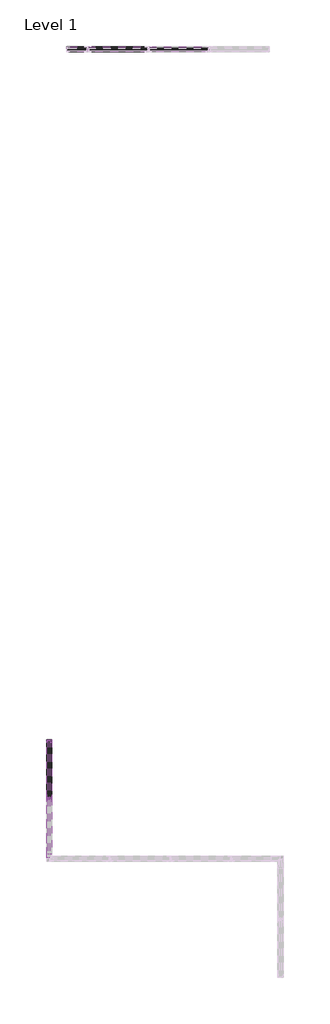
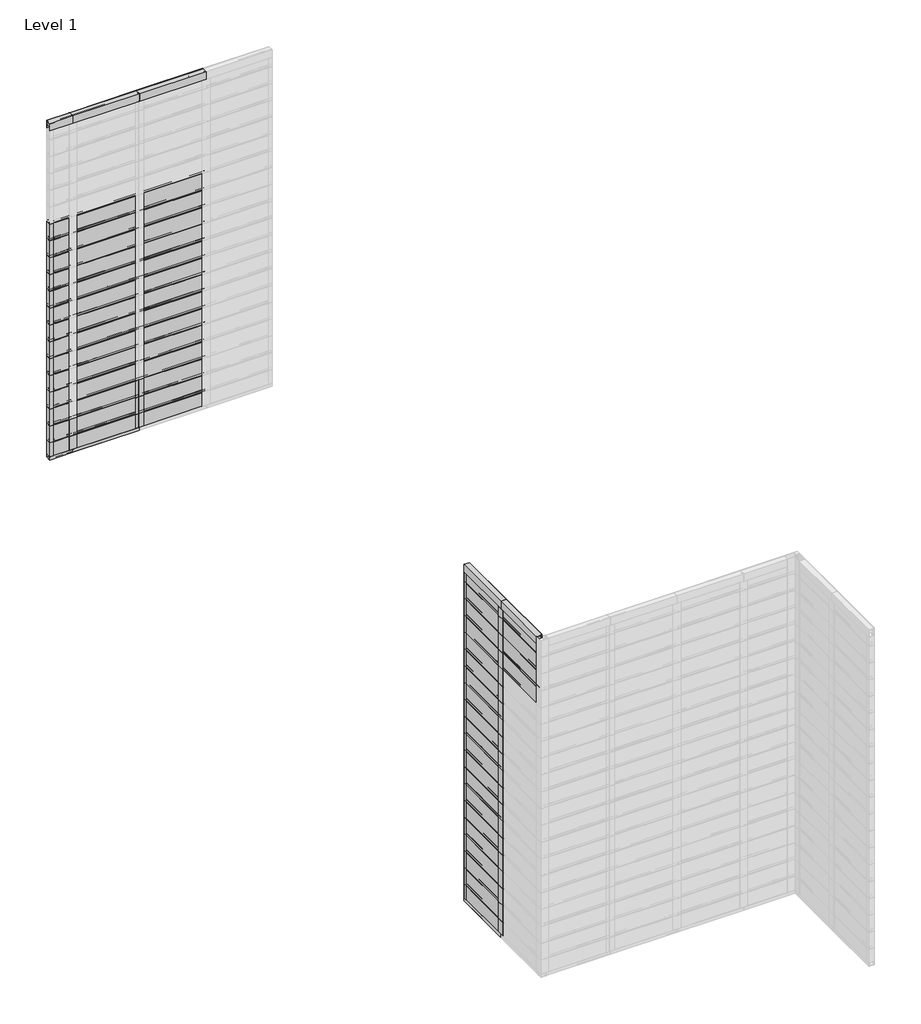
# One storey, part 4 of 6: 67 members, 66 plates.
"""IFC4 building model written with IfcOpenShell, lengths in millimetres."""

from ifc_helpers import new_model, si_unit, origin, place, context, project, spatial, transform, mapped, element, save
from components import rectangular_mullion_fastplank_2_piece_j_trim_top_c2ded550, rectangular_mullion_fastplank_2_piece_j_trim_top_f27fafb0, rectangular_mullion_fastplank_2_piece_j_trim_top_af0a0e51, rectangular_mullion_fastplank_2_piece_j_trim_top_f65f7e6d, rectangular_mullion_fastplank_2_piece_vertical_trim_b8f20e14, rectangular_mullion_fastplank_2_piece_vertical_trim_8e228b97, rectangular_mullion_fastplank_2_piece_vertical_trim_78afc4f4, rectangular_mullion_fastplank_general_j_vertical_left_750d52f3, rectangular_mullion_fastplank_general_j_vertical_left_688eca9a, rectangular_mullion_fastplank_general_j_vertical_left_7844d5d4, rectangular_mullion_fastplank_perforated_starter_j_trim_76a2169d, rectangular_mullion_fastplank_perforated_starter_j_trim_cc9b52f4, rectangular_mullion_fastplank_perforated_starter_j_trim_9e9efb74, plate_9c8115fe, plate_4d58e162, plate_4b7b00a6, plate_fd6fbabc, plate_b9223dce

model = new_model("IFC4")

# Units and contexts
model_context = context("Model", 3, world=origin())
ifc_project = project(units=[si_unit("LENGTHUNIT", "METRE", prefix="MILLI")], contexts=[model_context])

# Site, building, storey
site = spatial("IfcSite", under=ifc_project)
building = spatial("IfcBuilding", under=site)
storey = spatial("IfcBuildingStorey", under=building, Name="Level 1", Elevation=0.0)

# Members
placement = place(None, origin())
rectangular_mullion_fastplank_2_piece_j_trim_top_shape = rectangular_mullion_fastplank_2_piece_j_trim_top_c2ded550(model_context)
element("IfcMember", 1, ObjectType="Rectangular Mullion : FastPlank_2-Piece-J-Trim-Top", at=placement, inside=storey, context=model_context, shape_type="MappedRepresentation", body=[
    mapped(rectangular_mullion_fastplank_2_piece_j_trim_top_shape, transform((-1892.9700325, 7024.9134647, 2032.0), x_axis=(0.0, 0.0, 1.0), y_axis=(0.0, 1.0, 0.0), z_axis=(-1.0, 0.0, 0.0))),
])
rectangular_mullion_fastplank_2_piece_j_trim_top_2_shape = rectangular_mullion_fastplank_2_piece_j_trim_top_f27fafb0(model_context)
element("IfcMember", 2, ObjectType="Rectangular Mullion : FastPlank_2-Piece-J-Trim-Top", at=placement, inside=storey, context=model_context, shape_type="MappedRepresentation", body=[
    mapped(rectangular_mullion_fastplank_2_piece_j_trim_top_2_shape, transform((-1380.5316441, 7024.9134647, 2032.0), x_axis=(0.0, 0.0, 1.0), y_axis=(0.0, 1.0, 0.0), z_axis=(-1.0, 0.0, 0.0))),
])
element("IfcMember", 3, ObjectType="Rectangular Mullion : FastPlank_2-Piece-J-Trim-Top", at=placement, inside=storey, context=model_context, shape_type="MappedRepresentation", body=[
    mapped(rectangular_mullion_fastplank_2_piece_j_trim_top_2_shape, transform((-1761.5316441, 7024.9134647, 2032.0), x_axis=(0.0, 0.0, 1.0), y_axis=(0.0, 1.0, 0.0), z_axis=(-1.0, 0.0, 0.0))),
])
rectangular_mullion_fastplank_2_piece_j_trim_top_3_shape = rectangular_mullion_fastplank_2_piece_j_trim_top_af0a0e51(model_context)
element("IfcMember", 4, ObjectType="Rectangular Mullion : FastPlank_2-Piece-J-Trim-Top", at=placement, inside=storey, context=model_context, shape_type="MappedRepresentation", body=[
    mapped(rectangular_mullion_fastplank_2_piece_j_trim_top_3_shape, transform((-1998.3218907, 2685.265323, 2032.0), x_axis=(0.0, 0.0, 1.0), y_axis=(1.0, 0.0, 0.0), z_axis=(0.0, 1.0, 0.0))),
])
rectangular_mullion_fastplank_2_piece_j_trim_top_4_shape = rectangular_mullion_fastplank_2_piece_j_trim_top_f65f7e6d(model_context)
element("IfcMember", 5, ObjectType="Rectangular Mullion : FastPlank_2-Piece-J-Trim-Top", at=placement, inside=storey, context=model_context, shape_type="MappedRepresentation", body=[
    mapped(rectangular_mullion_fastplank_2_piece_j_trim_top_4_shape, transform((-1998.3218907, 2320.1496574, 2032.0), x_axis=(0.0, 0.0, 1.0), y_axis=(1.0, 0.0, 0.0), z_axis=(0.0, 1.0, 0.0))),
])
rectangular_mullion_fastplank_2_piece_vertical_trim_shape = rectangular_mullion_fastplank_2_piece_vertical_trim_b8f20e14(model_context)
element("IfcMember", 6, ObjectType="Rectangular Mullion : FastPlank_2-Piece-Vertical-Trim", at=placement, inside=storey, context=model_context, shape_type="MappedRepresentation", body=[
    mapped(rectangular_mullion_fastplank_2_piece_vertical_trim_shape, transform((-1998.3218907, 2320.1496574, 102.9000189), x_axis=(0.0, 1.0, 0.0), y_axis=(1.0, 0.0, 0.0), z_axis=(0.0, 0.0, -1.0))),
])
element("IfcMember", 7, ObjectType="Rectangular Mullion : FastPlank_2-Piece-Vertical-Trim", at=placement, inside=storey, context=model_context, shape_type="MappedRepresentation", body=[
    mapped(rectangular_mullion_fastplank_2_piece_vertical_trim_shape, transform((-1998.3218907, 2320.1496574, 204.5000189), x_axis=(0.0, 1.0, 0.0), y_axis=(1.0, 0.0, 0.0), z_axis=(0.0, 0.0, -1.0))),
])
element("IfcMember", 8, ObjectType="Rectangular Mullion : FastPlank_2-Piece-Vertical-Trim", at=placement, inside=storey, context=model_context, shape_type="MappedRepresentation", body=[
    mapped(rectangular_mullion_fastplank_2_piece_vertical_trim_shape, transform((-1998.3218907, 2320.1496574, 306.1000189), x_axis=(0.0, 1.0, 0.0), y_axis=(1.0, 0.0, 0.0), z_axis=(0.0, 0.0, -1.0))),
])
element("IfcMember", 9, ObjectType="Rectangular Mullion : FastPlank_2-Piece-Vertical-Trim", at=placement, inside=storey, context=model_context, shape_type="MappedRepresentation", body=[
    mapped(rectangular_mullion_fastplank_2_piece_vertical_trim_shape, transform((-1998.3218907, 2320.1496574, 407.7000189), x_axis=(0.0, 1.0, 0.0), y_axis=(1.0, 0.0, 0.0), z_axis=(0.0, 0.0, -1.0))),
])
element("IfcMember", 10, ObjectType="Rectangular Mullion : FastPlank_2-Piece-Vertical-Trim", at=placement, inside=storey, context=model_context, shape_type="MappedRepresentation", body=[
    mapped(rectangular_mullion_fastplank_2_piece_vertical_trim_shape, transform((-1998.3218907, 2320.1496574, 509.3000189), x_axis=(0.0, 1.0, 0.0), y_axis=(1.0, 0.0, 0.0), z_axis=(0.0, 0.0, -1.0))),
])
element("IfcMember", 11, ObjectType="Rectangular Mullion : FastPlank_2-Piece-Vertical-Trim", at=placement, inside=storey, context=model_context, shape_type="MappedRepresentation", body=[
    mapped(rectangular_mullion_fastplank_2_piece_vertical_trim_shape, transform((-1998.3218907, 2320.1496574, 610.9000189), x_axis=(0.0, 1.0, 0.0), y_axis=(1.0, 0.0, 0.0), z_axis=(0.0, 0.0, -1.0))),
])
element("IfcMember", 12, ObjectType="Rectangular Mullion : FastPlank_2-Piece-Vertical-Trim", at=placement, inside=storey, context=model_context, shape_type="MappedRepresentation", body=[
    mapped(rectangular_mullion_fastplank_2_piece_vertical_trim_shape, transform((-1998.3218907, 2320.1496574, 712.5000189), x_axis=(0.0, 1.0, 0.0), y_axis=(1.0, 0.0, 0.0), z_axis=(0.0, 0.0, -1.0))),
])
element("IfcMember", 13, ObjectType="Rectangular Mullion : FastPlank_2-Piece-Vertical-Trim", at=placement, inside=storey, context=model_context, shape_type="MappedRepresentation", body=[
    mapped(rectangular_mullion_fastplank_2_piece_vertical_trim_shape, transform((-1998.3218907, 2320.1496574, 814.1000189), x_axis=(0.0, 1.0, 0.0), y_axis=(1.0, 0.0, 0.0), z_axis=(0.0, 0.0, -1.0))),
])
element("IfcMember", 14, ObjectType="Rectangular Mullion : FastPlank_2-Piece-Vertical-Trim", at=placement, inside=storey, context=model_context, shape_type="MappedRepresentation", body=[
    mapped(rectangular_mullion_fastplank_2_piece_vertical_trim_shape, transform((-1998.3218907, 2320.1496574, 915.7000189), x_axis=(0.0, 1.0, 0.0), y_axis=(1.0, 0.0, 0.0), z_axis=(0.0, 0.0, -1.0))),
])
element("IfcMember", 15, ObjectType="Rectangular Mullion : FastPlank_2-Piece-Vertical-Trim", at=placement, inside=storey, context=model_context, shape_type="MappedRepresentation", body=[
    mapped(rectangular_mullion_fastplank_2_piece_vertical_trim_shape, transform((-1998.3218907, 2320.1496574, 1017.3000189), x_axis=(0.0, 1.0, 0.0), y_axis=(1.0, 0.0, 0.0), z_axis=(0.0, 0.0, -1.0))),
])
element("IfcMember", 16, ObjectType="Rectangular Mullion : FastPlank_2-Piece-Vertical-Trim", at=placement, inside=storey, context=model_context, shape_type="MappedRepresentation", body=[
    mapped(rectangular_mullion_fastplank_2_piece_vertical_trim_shape, transform((-1998.3218907, 2320.1496574, 1118.9000189), x_axis=(0.0, 1.0, 0.0), y_axis=(1.0, 0.0, 0.0), z_axis=(0.0, 0.0, -1.0))),
])
element("IfcMember", 17, ObjectType="Rectangular Mullion : FastPlank_2-Piece-Vertical-Trim", at=placement, inside=storey, context=model_context, shape_type="MappedRepresentation", body=[
    mapped(rectangular_mullion_fastplank_2_piece_vertical_trim_shape, transform((-1998.3218907, 2320.1496574, 1220.5000189), x_axis=(0.0, 1.0, 0.0), y_axis=(1.0, 0.0, 0.0), z_axis=(0.0, 0.0, -1.0))),
])
element("IfcMember", 18, ObjectType="Rectangular Mullion : FastPlank_2-Piece-Vertical-Trim", at=placement, inside=storey, context=model_context, shape_type="MappedRepresentation", body=[
    mapped(rectangular_mullion_fastplank_2_piece_vertical_trim_shape, transform((-1998.3218907, 2320.1496574, 1322.1000189), x_axis=(0.0, 1.0, 0.0), y_axis=(1.0, 0.0, 0.0), z_axis=(0.0, 0.0, -1.0))),
])
element("IfcMember", 19, ObjectType="Rectangular Mullion : FastPlank_2-Piece-Vertical-Trim", at=placement, inside=storey, context=model_context, shape_type="MappedRepresentation", body=[
    mapped(rectangular_mullion_fastplank_2_piece_vertical_trim_shape, transform((-1998.3218907, 2320.1496574, 1423.7000189), x_axis=(0.0, 1.0, 0.0), y_axis=(1.0, 0.0, 0.0), z_axis=(0.0, 0.0, -1.0))),
])
element("IfcMember", 20, ObjectType="Rectangular Mullion : FastPlank_2-Piece-Vertical-Trim", at=placement, inside=storey, context=model_context, shape_type="MappedRepresentation", body=[
    mapped(rectangular_mullion_fastplank_2_piece_vertical_trim_shape, transform((-1998.3218907, 2320.1496574, 1525.3000189), x_axis=(0.0, 1.0, 0.0), y_axis=(1.0, 0.0, 0.0), z_axis=(0.0, 0.0, -1.0))),
])
element("IfcMember", 21, ObjectType="Rectangular Mullion : FastPlank_2-Piece-Vertical-Trim", at=placement, inside=storey, context=model_context, shape_type="MappedRepresentation", body=[
    mapped(rectangular_mullion_fastplank_2_piece_vertical_trim_shape, transform((-1998.3218907, 2320.1496574, 1626.9000189), x_axis=(0.0, 1.0, 0.0), y_axis=(1.0, 0.0, 0.0), z_axis=(0.0, 0.0, -1.0))),
])
element("IfcMember", 22, ObjectType="Rectangular Mullion : FastPlank_2-Piece-Vertical-Trim", at=placement, inside=storey, context=model_context, shape_type="MappedRepresentation", body=[
    mapped(rectangular_mullion_fastplank_2_piece_vertical_trim_shape, transform((-1998.3218907, 2320.1496574, 1728.5000189), x_axis=(0.0, 1.0, 0.0), y_axis=(1.0, 0.0, 0.0), z_axis=(0.0, 0.0, -1.0))),
])
element("IfcMember", 23, ObjectType="Rectangular Mullion : FastPlank_2-Piece-Vertical-Trim", at=placement, inside=storey, context=model_context, shape_type="MappedRepresentation", body=[
    mapped(rectangular_mullion_fastplank_2_piece_vertical_trim_shape, transform((-1998.3218907, 2320.1496574, 1830.1000189), x_axis=(0.0, 1.0, 0.0), y_axis=(1.0, 0.0, 0.0), z_axis=(0.0, 0.0, -1.0))),
])
element("IfcMember", 24, ObjectType="Rectangular Mullion : FastPlank_2-Piece-Vertical-Trim", at=placement, inside=storey, context=model_context, shape_type="MappedRepresentation", body=[
    mapped(rectangular_mullion_fastplank_2_piece_vertical_trim_shape, transform((-1380.5316441, 7024.9134647, 102.9000189), x_axis=(-1.0, 0.0, 0.0), y_axis=(0.0, 1.0, 0.0), z_axis=(0.0, 0.0, -1.0))),
])
element("IfcMember", 25, ObjectType="Rectangular Mullion : FastPlank_2-Piece-Vertical-Trim", at=placement, inside=storey, context=model_context, shape_type="MappedRepresentation", body=[
    mapped(rectangular_mullion_fastplank_2_piece_vertical_trim_shape, transform((-1761.5316441, 7024.9134647, 102.9000189), x_axis=(-1.0, 0.0, 0.0), y_axis=(0.0, 1.0, 0.0), z_axis=(0.0, 0.0, -1.0))),
])
element("IfcMember", 26, ObjectType="Rectangular Mullion : FastPlank_2-Piece-Vertical-Trim", at=placement, inside=storey, context=model_context, shape_type="MappedRepresentation", body=[
    mapped(rectangular_mullion_fastplank_2_piece_vertical_trim_shape, transform((-1380.5316441, 7024.9134647, 204.5000189), x_axis=(-1.0, 0.0, 0.0), y_axis=(0.0, 1.0, 0.0), z_axis=(0.0, 0.0, -1.0))),
])
rectangular_mullion_fastplank_2_piece_vertical_trim_2_shape = rectangular_mullion_fastplank_2_piece_vertical_trim_8e228b97(model_context)
element("IfcMember", 27, ObjectType="Rectangular Mullion : FastPlank_2-Piece-Vertical-Trim", at=placement, inside=storey, context=model_context, shape_type="MappedRepresentation", body=[
    mapped(rectangular_mullion_fastplank_2_piece_vertical_trim_2_shape, transform((-1998.3218907, 2320.1496574, 1931.7000189), x_axis=(0.0, 1.0, 0.0), y_axis=(1.0, 0.0, 0.0), z_axis=(0.0, 0.0, -1.0))),
])
rectangular_mullion_fastplank_2_piece_vertical_trim_3_shape = rectangular_mullion_fastplank_2_piece_vertical_trim_78afc4f4(model_context)
element("IfcMember", 28, ObjectType="Rectangular Mullion : FastPlank_2-Piece-Vertical-Trim", at=placement, inside=storey, context=model_context, shape_type="MappedRepresentation", body=[
    mapped(rectangular_mullion_fastplank_2_piece_vertical_trim_3_shape, transform((-1998.3218907, 2320.1496574, 19.05), x_axis=(0.0, 1.0, 0.0), y_axis=(1.0, 0.0, 0.0), z_axis=(0.0, 0.0, -1.0))),
])
element("IfcMember", 29, ObjectType="Rectangular Mullion : FastPlank_2-Piece-Vertical-Trim", at=placement, inside=storey, context=model_context, shape_type="MappedRepresentation", body=[
    mapped(rectangular_mullion_fastplank_2_piece_vertical_trim_3_shape, transform((-1380.5316441, 7024.9134647, 19.05), x_axis=(-1.0, 0.0, 0.0), y_axis=(0.0, 1.0, 0.0), z_axis=(0.0, 0.0, -1.0))),
])
element("IfcMember", 30, ObjectType="Rectangular Mullion : FastPlank_2-Piece-Vertical-Trim", at=placement, inside=storey, context=model_context, shape_type="MappedRepresentation", body=[
    mapped(rectangular_mullion_fastplank_2_piece_vertical_trim_3_shape, transform((-1761.5316441, 7024.9134647, 19.05), x_axis=(-1.0, 0.0, 0.0), y_axis=(0.0, 1.0, 0.0), z_axis=(0.0, 0.0, -1.0))),
])
rectangular_mullion_fastplank_general_j_vertical_left_shape = rectangular_mullion_fastplank_general_j_vertical_left_750d52f3(model_context)
element("IfcMember", 31, ObjectType="Rectangular Mullion : FastPlank_General-J-Vertical-Left", at=placement, inside=storey, context=model_context, shape_type="MappedRepresentation", body=[
    mapped(rectangular_mullion_fastplank_general_j_vertical_left_shape, transform((-1998.3218907, 2685.265323, 102.9000189), x_axis=(0.0, 1.0, 0.0), y_axis=(1.0, 0.0, 0.0), z_axis=(0.0, 0.0, -1.0))),
])
element("IfcMember", 32, ObjectType="Rectangular Mullion : FastPlank_General-J-Vertical-Left", at=placement, inside=storey, context=model_context, shape_type="MappedRepresentation", body=[
    mapped(rectangular_mullion_fastplank_general_j_vertical_left_shape, transform((-1998.3218907, 2685.265323, 204.5000189), x_axis=(0.0, 1.0, 0.0), y_axis=(1.0, 0.0, 0.0), z_axis=(0.0, 0.0, -1.0))),
])
element("IfcMember", 33, ObjectType="Rectangular Mullion : FastPlank_General-J-Vertical-Left", at=placement, inside=storey, context=model_context, shape_type="MappedRepresentation", body=[
    mapped(rectangular_mullion_fastplank_general_j_vertical_left_shape, transform((-1998.3218907, 2685.265323, 306.1000189), x_axis=(0.0, 1.0, 0.0), y_axis=(1.0, 0.0, 0.0), z_axis=(0.0, 0.0, -1.0))),
])
element("IfcMember", 34, ObjectType="Rectangular Mullion : FastPlank_General-J-Vertical-Left", at=placement, inside=storey, context=model_context, shape_type="MappedRepresentation", body=[
    mapped(rectangular_mullion_fastplank_general_j_vertical_left_shape, transform((-1998.3218907, 2685.265323, 407.7000189), x_axis=(0.0, 1.0, 0.0), y_axis=(1.0, 0.0, 0.0), z_axis=(0.0, 0.0, -1.0))),
])
element("IfcMember", 35, ObjectType="Rectangular Mullion : FastPlank_General-J-Vertical-Left", at=placement, inside=storey, context=model_context, shape_type="MappedRepresentation", body=[
    mapped(rectangular_mullion_fastplank_general_j_vertical_left_shape, transform((-1998.3218907, 2685.265323, 509.3000189), x_axis=(0.0, 1.0, 0.0), y_axis=(1.0, 0.0, 0.0), z_axis=(0.0, 0.0, -1.0))),
])
element("IfcMember", 36, ObjectType="Rectangular Mullion : FastPlank_General-J-Vertical-Left", at=placement, inside=storey, context=model_context, shape_type="MappedRepresentation", body=[
    mapped(rectangular_mullion_fastplank_general_j_vertical_left_shape, transform((-1998.3218907, 2685.265323, 610.9000189), x_axis=(0.0, 1.0, 0.0), y_axis=(1.0, 0.0, 0.0), z_axis=(0.0, 0.0, -1.0))),
])
element("IfcMember", 37, ObjectType="Rectangular Mullion : FastPlank_General-J-Vertical-Left", at=placement, inside=storey, context=model_context, shape_type="MappedRepresentation", body=[
    mapped(rectangular_mullion_fastplank_general_j_vertical_left_shape, transform((-1998.3218907, 2685.265323, 712.5000189), x_axis=(0.0, 1.0, 0.0), y_axis=(1.0, 0.0, 0.0), z_axis=(0.0, 0.0, -1.0))),
])
element("IfcMember", 38, ObjectType="Rectangular Mullion : FastPlank_General-J-Vertical-Left", at=placement, inside=storey, context=model_context, shape_type="MappedRepresentation", body=[
    mapped(rectangular_mullion_fastplank_general_j_vertical_left_shape, transform((-1998.3218907, 2685.265323, 814.1000189), x_axis=(0.0, 1.0, 0.0), y_axis=(1.0, 0.0, 0.0), z_axis=(0.0, 0.0, -1.0))),
])
element("IfcMember", 39, ObjectType="Rectangular Mullion : FastPlank_General-J-Vertical-Left", at=placement, inside=storey, context=model_context, shape_type="MappedRepresentation", body=[
    mapped(rectangular_mullion_fastplank_general_j_vertical_left_shape, transform((-1998.3218907, 2685.265323, 915.7000189), x_axis=(0.0, 1.0, 0.0), y_axis=(1.0, 0.0, 0.0), z_axis=(0.0, 0.0, -1.0))),
])
element("IfcMember", 40, ObjectType="Rectangular Mullion : FastPlank_General-J-Vertical-Left", at=placement, inside=storey, context=model_context, shape_type="MappedRepresentation", body=[
    mapped(rectangular_mullion_fastplank_general_j_vertical_left_shape, transform((-1998.3218907, 2685.265323, 1017.3000189), x_axis=(0.0, 1.0, 0.0), y_axis=(1.0, 0.0, 0.0), z_axis=(0.0, 0.0, -1.0))),
])
element("IfcMember", 41, ObjectType="Rectangular Mullion : FastPlank_General-J-Vertical-Left", at=placement, inside=storey, context=model_context, shape_type="MappedRepresentation", body=[
    mapped(rectangular_mullion_fastplank_general_j_vertical_left_shape, transform((-1998.3218907, 2685.265323, 1118.9000189), x_axis=(0.0, 1.0, 0.0), y_axis=(1.0, 0.0, 0.0), z_axis=(0.0, 0.0, -1.0))),
])
element("IfcMember", 42, ObjectType="Rectangular Mullion : FastPlank_General-J-Vertical-Left", at=placement, inside=storey, context=model_context, shape_type="MappedRepresentation", body=[
    mapped(rectangular_mullion_fastplank_general_j_vertical_left_shape, transform((-1998.3218907, 2685.265323, 1220.5000189), x_axis=(0.0, 1.0, 0.0), y_axis=(1.0, 0.0, 0.0), z_axis=(0.0, 0.0, -1.0))),
])
element("IfcMember", 43, ObjectType="Rectangular Mullion : FastPlank_General-J-Vertical-Left", at=placement, inside=storey, context=model_context, shape_type="MappedRepresentation", body=[
    mapped(rectangular_mullion_fastplank_general_j_vertical_left_shape, transform((-1998.3218907, 2685.265323, 1322.1000189), x_axis=(0.0, 1.0, 0.0), y_axis=(1.0, 0.0, 0.0), z_axis=(0.0, 0.0, -1.0))),
])
element("IfcMember", 44, ObjectType="Rectangular Mullion : FastPlank_General-J-Vertical-Left", at=placement, inside=storey, context=model_context, shape_type="MappedRepresentation", body=[
    mapped(rectangular_mullion_fastplank_general_j_vertical_left_shape, transform((-1998.3218907, 2685.265323, 1423.7000189), x_axis=(0.0, 1.0, 0.0), y_axis=(1.0, 0.0, 0.0), z_axis=(0.0, 0.0, -1.0))),
])
element("IfcMember", 45, ObjectType="Rectangular Mullion : FastPlank_General-J-Vertical-Left", at=placement, inside=storey, context=model_context, shape_type="MappedRepresentation", body=[
    mapped(rectangular_mullion_fastplank_general_j_vertical_left_shape, transform((-1998.3218907, 2685.265323, 1525.3000189), x_axis=(0.0, 1.0, 0.0), y_axis=(1.0, 0.0, 0.0), z_axis=(0.0, 0.0, -1.0))),
])
element("IfcMember", 46, ObjectType="Rectangular Mullion : FastPlank_General-J-Vertical-Left", at=placement, inside=storey, context=model_context, shape_type="MappedRepresentation", body=[
    mapped(rectangular_mullion_fastplank_general_j_vertical_left_shape, transform((-1998.3218907, 2685.265323, 1626.9000189), x_axis=(0.0, 1.0, 0.0), y_axis=(1.0, 0.0, 0.0), z_axis=(0.0, 0.0, -1.0))),
])
element("IfcMember", 47, ObjectType="Rectangular Mullion : FastPlank_General-J-Vertical-Left", at=placement, inside=storey, context=model_context, shape_type="MappedRepresentation", body=[
    mapped(rectangular_mullion_fastplank_general_j_vertical_left_shape, transform((-1998.3218907, 2685.265323, 1728.5000189), x_axis=(0.0, 1.0, 0.0), y_axis=(1.0, 0.0, 0.0), z_axis=(0.0, 0.0, -1.0))),
])
element("IfcMember", 48, ObjectType="Rectangular Mullion : FastPlank_General-J-Vertical-Left", at=placement, inside=storey, context=model_context, shape_type="MappedRepresentation", body=[
    mapped(rectangular_mullion_fastplank_general_j_vertical_left_shape, transform((-1998.3218907, 2685.265323, 1830.1000189), x_axis=(0.0, 1.0, 0.0), y_axis=(1.0, 0.0, 0.0), z_axis=(0.0, 0.0, -1.0))),
])
element("IfcMember", 49, ObjectType="Rectangular Mullion : FastPlank_General-J-Vertical-Left", at=placement, inside=storey, context=model_context, shape_type="MappedRepresentation", body=[
    mapped(rectangular_mullion_fastplank_general_j_vertical_left_shape, transform((-1892.9700325, 7024.9134647, 102.9000189), x_axis=(-1.0, 0.0, 0.0), y_axis=(0.0, 1.0, 0.0), z_axis=(0.0, 0.0, -1.0))),
])
element("IfcMember", 50, ObjectType="Rectangular Mullion : FastPlank_General-J-Vertical-Left", at=placement, inside=storey, context=model_context, shape_type="MappedRepresentation", body=[
    mapped(rectangular_mullion_fastplank_general_j_vertical_left_shape, transform((-1892.9700325, 7024.9134647, 204.5000189), x_axis=(-1.0, 0.0, 0.0), y_axis=(0.0, 1.0, 0.0), z_axis=(0.0, 0.0, -1.0))),
])
element("IfcMember", 51, ObjectType="Rectangular Mullion : FastPlank_General-J-Vertical-Left", at=placement, inside=storey, context=model_context, shape_type="MappedRepresentation", body=[
    mapped(rectangular_mullion_fastplank_general_j_vertical_left_shape, transform((-1892.9700325, 7024.9134647, 306.1000189), x_axis=(-1.0, 0.0, 0.0), y_axis=(0.0, 1.0, 0.0), z_axis=(0.0, 0.0, -1.0))),
])
element("IfcMember", 52, ObjectType="Rectangular Mullion : FastPlank_General-J-Vertical-Left", at=placement, inside=storey, context=model_context, shape_type="MappedRepresentation", body=[
    mapped(rectangular_mullion_fastplank_general_j_vertical_left_shape, transform((-1892.9700325, 7024.9134647, 407.7000189), x_axis=(-1.0, 0.0, 0.0), y_axis=(0.0, 1.0, 0.0), z_axis=(0.0, 0.0, -1.0))),
])
element("IfcMember", 53, ObjectType="Rectangular Mullion : FastPlank_General-J-Vertical-Left", at=placement, inside=storey, context=model_context, shape_type="MappedRepresentation", body=[
    mapped(rectangular_mullion_fastplank_general_j_vertical_left_shape, transform((-1892.9700325, 7024.9134647, 509.3000189), x_axis=(-1.0, 0.0, 0.0), y_axis=(0.0, 1.0, 0.0), z_axis=(0.0, 0.0, -1.0))),
])
element("IfcMember", 54, ObjectType="Rectangular Mullion : FastPlank_General-J-Vertical-Left", at=placement, inside=storey, context=model_context, shape_type="MappedRepresentation", body=[
    mapped(rectangular_mullion_fastplank_general_j_vertical_left_shape, transform((-1892.9700325, 7024.9134647, 610.9000189), x_axis=(-1.0, 0.0, 0.0), y_axis=(0.0, 1.0, 0.0), z_axis=(0.0, 0.0, -1.0))),
])
element("IfcMember", 55, ObjectType="Rectangular Mullion : FastPlank_General-J-Vertical-Left", at=placement, inside=storey, context=model_context, shape_type="MappedRepresentation", body=[
    mapped(rectangular_mullion_fastplank_general_j_vertical_left_shape, transform((-1892.9700325, 7024.9134647, 712.5000189), x_axis=(-1.0, 0.0, 0.0), y_axis=(0.0, 1.0, 0.0), z_axis=(0.0, 0.0, -1.0))),
])
element("IfcMember", 56, ObjectType="Rectangular Mullion : FastPlank_General-J-Vertical-Left", at=placement, inside=storey, context=model_context, shape_type="MappedRepresentation", body=[
    mapped(rectangular_mullion_fastplank_general_j_vertical_left_shape, transform((-1892.9700325, 7024.9134647, 814.1000189), x_axis=(-1.0, 0.0, 0.0), y_axis=(0.0, 1.0, 0.0), z_axis=(0.0, 0.0, -1.0))),
])
element("IfcMember", 57, ObjectType="Rectangular Mullion : FastPlank_General-J-Vertical-Left", at=placement, inside=storey, context=model_context, shape_type="MappedRepresentation", body=[
    mapped(rectangular_mullion_fastplank_general_j_vertical_left_shape, transform((-1892.9700325, 7024.9134647, 915.7000189), x_axis=(-1.0, 0.0, 0.0), y_axis=(0.0, 1.0, 0.0), z_axis=(0.0, 0.0, -1.0))),
])
element("IfcMember", 58, ObjectType="Rectangular Mullion : FastPlank_General-J-Vertical-Left", at=placement, inside=storey, context=model_context, shape_type="MappedRepresentation", body=[
    mapped(rectangular_mullion_fastplank_general_j_vertical_left_shape, transform((-1892.9700325, 7024.9134647, 1017.3000189), x_axis=(-1.0, 0.0, 0.0), y_axis=(0.0, 1.0, 0.0), z_axis=(0.0, 0.0, -1.0))),
])
element("IfcMember", 59, ObjectType="Rectangular Mullion : FastPlank_General-J-Vertical-Left", at=placement, inside=storey, context=model_context, shape_type="MappedRepresentation", body=[
    mapped(rectangular_mullion_fastplank_general_j_vertical_left_shape, transform((-1892.9700325, 7024.9134647, 1118.9000189), x_axis=(-1.0, 0.0, 0.0), y_axis=(0.0, 1.0, 0.0), z_axis=(0.0, 0.0, -1.0))),
])
element("IfcMember", 60, ObjectType="Rectangular Mullion : FastPlank_General-J-Vertical-Left", at=placement, inside=storey, context=model_context, shape_type="MappedRepresentation", body=[
    mapped(rectangular_mullion_fastplank_general_j_vertical_left_shape, transform((-1892.9700325, 7024.9134647, 1220.5000189), x_axis=(-1.0, 0.0, 0.0), y_axis=(0.0, 1.0, 0.0), z_axis=(0.0, 0.0, -1.0))),
])
element("IfcMember", 61, ObjectType="Rectangular Mullion : FastPlank_General-J-Vertical-Left", at=placement, inside=storey, context=model_context, shape_type="MappedRepresentation", body=[
    mapped(rectangular_mullion_fastplank_general_j_vertical_left_shape, transform((-1892.9700325, 7024.9134647, 1322.1000189), x_axis=(-1.0, 0.0, 0.0), y_axis=(0.0, 1.0, 0.0), z_axis=(0.0, 0.0, -1.0))),
])
rectangular_mullion_fastplank_general_j_vertical_left_2_shape = rectangular_mullion_fastplank_general_j_vertical_left_688eca9a(model_context)
element("IfcMember", 62, ObjectType="Rectangular Mullion : FastPlank_General-J-Vertical-Left", at=placement, inside=storey, context=model_context, shape_type="MappedRepresentation", body=[
    mapped(rectangular_mullion_fastplank_general_j_vertical_left_2_shape, transform((-1998.3218907, 2685.265323, 1931.7000189), x_axis=(0.0, 1.0, 0.0), y_axis=(1.0, 0.0, 0.0), z_axis=(0.0, 0.0, -1.0))),
])
rectangular_mullion_fastplank_general_j_vertical_left_3_shape = rectangular_mullion_fastplank_general_j_vertical_left_7844d5d4(model_context)
element("IfcMember", 63, ObjectType="Rectangular Mullion : FastPlank_General-J-Vertical-Left", at=placement, inside=storey, context=model_context, shape_type="MappedRepresentation", body=[
    mapped(rectangular_mullion_fastplank_general_j_vertical_left_3_shape, transform((-1998.3218907, 2685.265323, 19.05), x_axis=(0.0, 1.0, 0.0), y_axis=(1.0, 0.0, 0.0), z_axis=(0.0, 0.0, -1.0))),
])
element("IfcMember", 64, ObjectType="Rectangular Mullion : FastPlank_General-J-Vertical-Left", at=placement, inside=storey, context=model_context, shape_type="MappedRepresentation", body=[
    mapped(rectangular_mullion_fastplank_general_j_vertical_left_3_shape, transform((-1892.9700325, 7024.9134647, 19.05), x_axis=(-1.0, 0.0, 0.0), y_axis=(0.0, 1.0, 0.0), z_axis=(0.0, 0.0, -1.0))),
])
rectangular_mullion_fastplank_perforated_starter_j_trim_shape = rectangular_mullion_fastplank_perforated_starter_j_trim_76a2169d(model_context)
element("IfcMember", 65, ObjectType="Rectangular Mullion : FastPlank_Perforated-Starter-J-Trim", at=placement, inside=storey, context=model_context, shape_type="MappedRepresentation", body=[
    mapped(rectangular_mullion_fastplank_perforated_starter_j_trim_shape, transform((-1380.5316441, 7024.9134647, 0.0), x_axis=(0.0, 0.0, -1.0), y_axis=(0.0, 1.0, 0.0), z_axis=(1.0, 0.0, 0.0))),
])
rectangular_mullion_fastplank_perforated_starter_j_trim_2_shape = rectangular_mullion_fastplank_perforated_starter_j_trim_cc9b52f4(model_context)
element("IfcMember", 66, ObjectType="Rectangular Mullion : FastPlank_Perforated-Starter-J-Trim", at=placement, inside=storey, context=model_context, shape_type="MappedRepresentation", body=[
    mapped(rectangular_mullion_fastplank_perforated_starter_j_trim_2_shape, transform((-1761.5316441, 7024.9134647, 0.0), x_axis=(0.0, 0.0, -1.0), y_axis=(0.0, 1.0, 0.0), z_axis=(1.0, 0.0, 0.0))),
])
rectangular_mullion_fastplank_perforated_starter_j_trim_3_shape = rectangular_mullion_fastplank_perforated_starter_j_trim_9e9efb74(model_context)
element("IfcMember", 67, ObjectType="Rectangular Mullion : FastPlank_Perforated-Starter-J-Trim", at=placement, inside=storey, context=model_context, shape_type="MappedRepresentation", body=[
    mapped(rectangular_mullion_fastplank_perforated_starter_j_trim_3_shape, transform((-1998.3218907, 2320.1496574, 0.0), x_axis=(0.0, 0.0, -1.0), y_axis=(1.0, 0.0, 0.0), z_axis=(0.0, -1.0, 0.0))),
])

# Plates
plate_shape = plate_9c8115fe(model_context)
element("IfcPlate", 68, ObjectType="FastPlank_P44V-V-Notch-4″-Plank-Horizontal : P44V-V-Notch-4″-Plank-Horizontal", at=placement, inside=storey, context=model_context, shape_type="MappedRepresentation", body=[
    mapped(plate_shape, transform((-1998.3218907, 2129.6496573, 1626.9000189), x_axis=(0.0, 1.0, 0.0), y_axis=(-1.0, 0.0, 0.0), z_axis=(0.0, 0.0, 1.0))),
])
element("IfcPlate", 69, ObjectType="FastPlank_P44V-V-Notch-4″-Plank-Horizontal : P44V-V-Notch-4″-Plank-Horizontal", at=placement, inside=storey, context=model_context, shape_type="MappedRepresentation", body=[
    mapped(plate_shape, transform((-1998.3218907, 2129.6496573, 1728.5000189), x_axis=(0.0, 1.0, 0.0), y_axis=(-1.0, 0.0, 0.0), z_axis=(0.0, 0.0, 1.0))),
])
element("IfcPlate", 70, ObjectType="FastPlank_P44V-V-Notch-4″-Plank-Horizontal : P44V-V-Notch-4″-Plank-Horizontal", at=placement, inside=storey, context=model_context, shape_type="MappedRepresentation", body=[
    mapped(plate_shape, transform((-1998.3218907, 2129.6496573, 1830.1000189), x_axis=(0.0, 1.0, 0.0), y_axis=(-1.0, 0.0, 0.0), z_axis=(0.0, 0.0, 1.0))),
])
element("IfcPlate", 71, ObjectType="FastPlank_P44V-V-Notch-4″-Plank-Horizontal : P44V-V-Notch-4″-Plank-Horizontal", at=placement, inside=storey, context=model_context, shape_type="MappedRepresentation", body=[
    mapped(plate_shape, transform((-1190.0316441, 7024.9134647, 1.3000189), x_axis=(-1.0, 0.0, 0.0), y_axis=(0.0, -1.0, 0.0), z_axis=(0.0, 0.0, 1.0))),
])
element("IfcPlate", 72, ObjectType="FastPlank_P44V-V-Notch-4″-Plank-Horizontal : P44V-V-Notch-4″-Plank-Horizontal", at=placement, inside=storey, context=model_context, shape_type="MappedRepresentation", body=[
    mapped(plate_shape, transform((-1190.0316441, 7024.9134647, 102.9000189), x_axis=(-1.0, 0.0, 0.0), y_axis=(0.0, -1.0, 0.0), z_axis=(0.0, 0.0, 1.0))),
])
element("IfcPlate", 73, ObjectType="FastPlank_P44V-V-Notch-4″-Plank-Horizontal : P44V-V-Notch-4″-Plank-Horizontal", at=placement, inside=storey, context=model_context, shape_type="MappedRepresentation", body=[
    mapped(plate_shape, transform((-1190.0316441, 7024.9134647, 204.5000189), x_axis=(-1.0, 0.0, 0.0), y_axis=(0.0, -1.0, 0.0), z_axis=(0.0, 0.0, 1.0))),
])
element("IfcPlate", 74, ObjectType="FastPlank_P44V-V-Notch-4″-Plank-Horizontal : P44V-V-Notch-4″-Plank-Horizontal", at=placement, inside=storey, context=model_context, shape_type="MappedRepresentation", body=[
    mapped(plate_shape, transform((-1190.0316441, 7024.9134647, 306.1000189), x_axis=(-1.0, 0.0, 0.0), y_axis=(0.0, -1.0, 0.0), z_axis=(0.0, 0.0, 1.0))),
])
element("IfcPlate", 75, ObjectType="FastPlank_P44V-V-Notch-4″-Plank-Horizontal : P44V-V-Notch-4″-Plank-Horizontal", at=placement, inside=storey, context=model_context, shape_type="MappedRepresentation", body=[
    mapped(plate_shape, transform((-1190.0316441, 7024.9134647, 407.7000189), x_axis=(-1.0, 0.0, 0.0), y_axis=(0.0, -1.0, 0.0), z_axis=(0.0, 0.0, 1.0))),
])
element("IfcPlate", 76, ObjectType="FastPlank_P44V-V-Notch-4″-Plank-Horizontal : P44V-V-Notch-4″-Plank-Horizontal", at=placement, inside=storey, context=model_context, shape_type="MappedRepresentation", body=[
    mapped(plate_shape, transform((-1190.0316441, 7024.9134647, 509.3000189), x_axis=(-1.0, 0.0, 0.0), y_axis=(0.0, -1.0, 0.0), z_axis=(0.0, 0.0, 1.0))),
])
element("IfcPlate", 77, ObjectType="FastPlank_P44V-V-Notch-4″-Plank-Horizontal : P44V-V-Notch-4″-Plank-Horizontal", at=placement, inside=storey, context=model_context, shape_type="MappedRepresentation", body=[
    mapped(plate_shape, transform((-1190.0316441, 7024.9134647, 610.9000189), x_axis=(-1.0, 0.0, 0.0), y_axis=(0.0, -1.0, 0.0), z_axis=(0.0, 0.0, 1.0))),
])
element("IfcPlate", 78, ObjectType="FastPlank_P44V-V-Notch-4″-Plank-Horizontal : P44V-V-Notch-4″-Plank-Horizontal", at=placement, inside=storey, context=model_context, shape_type="MappedRepresentation", body=[
    mapped(plate_shape, transform((-1190.0316441, 7024.9134647, 712.5000189), x_axis=(-1.0, 0.0, 0.0), y_axis=(0.0, -1.0, 0.0), z_axis=(0.0, 0.0, 1.0))),
])
element("IfcPlate", 79, ObjectType="FastPlank_P44V-V-Notch-4″-Plank-Horizontal : P44V-V-Notch-4″-Plank-Horizontal", at=placement, inside=storey, context=model_context, shape_type="MappedRepresentation", body=[
    mapped(plate_shape, transform((-1190.0316441, 7024.9134647, 814.1000189), x_axis=(-1.0, 0.0, 0.0), y_axis=(0.0, -1.0, 0.0), z_axis=(0.0, 0.0, 1.0))),
])
element("IfcPlate", 80, ObjectType="FastPlank_P44V-V-Notch-4″-Plank-Horizontal : P44V-V-Notch-4″-Plank-Horizontal", at=placement, inside=storey, context=model_context, shape_type="MappedRepresentation", body=[
    mapped(plate_shape, transform((-1190.0316441, 7024.9134647, 915.7000189), x_axis=(-1.0, 0.0, 0.0), y_axis=(0.0, -1.0, 0.0), z_axis=(0.0, 0.0, 1.0))),
])
element("IfcPlate", 81, ObjectType="FastPlank_P44V-V-Notch-4″-Plank-Horizontal : P44V-V-Notch-4″-Plank-Horizontal", at=placement, inside=storey, context=model_context, shape_type="MappedRepresentation", body=[
    mapped(plate_shape, transform((-1190.0316441, 7024.9134647, 1017.3000189), x_axis=(-1.0, 0.0, 0.0), y_axis=(0.0, -1.0, 0.0), z_axis=(0.0, 0.0, 1.0))),
])
element("IfcPlate", 82, ObjectType="FastPlank_P44V-V-Notch-4″-Plank-Horizontal : P44V-V-Notch-4″-Plank-Horizontal", at=placement, inside=storey, context=model_context, shape_type="MappedRepresentation", body=[
    mapped(plate_shape, transform((-1190.0316441, 7024.9134647, 1118.9000189), x_axis=(-1.0, 0.0, 0.0), y_axis=(0.0, -1.0, 0.0), z_axis=(0.0, 0.0, 1.0))),
])
element("IfcPlate", 83, ObjectType="FastPlank_P44V-V-Notch-4″-Plank-Horizontal : P44V-V-Notch-4″-Plank-Horizontal", at=placement, inside=storey, context=model_context, shape_type="MappedRepresentation", body=[
    mapped(plate_shape, transform((-1190.0316441, 7024.9134647, 1220.5000189), x_axis=(-1.0, 0.0, 0.0), y_axis=(0.0, -1.0, 0.0), z_axis=(0.0, 0.0, 1.0))),
])
element("IfcPlate", 84, ObjectType="FastPlank_P44V-V-Notch-4″-Plank-Horizontal : P44V-V-Notch-4″-Plank-Horizontal", at=placement, inside=storey, context=model_context, shape_type="MappedRepresentation", body=[
    mapped(plate_shape, transform((-1190.0316441, 7024.9134647, 1322.1000189), x_axis=(-1.0, 0.0, 0.0), y_axis=(0.0, -1.0, 0.0), z_axis=(0.0, 0.0, 1.0))),
])
element("IfcPlate", 85, ObjectType="FastPlank_P44V-V-Notch-4″-Plank-Horizontal : P44V-V-Notch-4″-Plank-Horizontal", at=placement, inside=storey, context=model_context, shape_type="MappedRepresentation", body=[
    mapped(plate_shape, transform((-1571.0316441, 7024.9134647, 1.3000189), x_axis=(-1.0, 0.0, 0.0), y_axis=(0.0, -1.0, 0.0), z_axis=(0.0, 0.0, 1.0))),
])
element("IfcPlate", 86, ObjectType="FastPlank_P44V-V-Notch-4″-Plank-Horizontal : P44V-V-Notch-4″-Plank-Horizontal", at=placement, inside=storey, context=model_context, shape_type="MappedRepresentation", body=[
    mapped(plate_shape, transform((-1571.0316441, 7024.9134647, 102.9000189), x_axis=(-1.0, 0.0, 0.0), y_axis=(0.0, -1.0, 0.0), z_axis=(0.0, 0.0, 1.0))),
])
element("IfcPlate", 87, ObjectType="FastPlank_P44V-V-Notch-4″-Plank-Horizontal : P44V-V-Notch-4″-Plank-Horizontal", at=placement, inside=storey, context=model_context, shape_type="MappedRepresentation", body=[
    mapped(plate_shape, transform((-1571.0316441, 7024.9134647, 204.5000189), x_axis=(-1.0, 0.0, 0.0), y_axis=(0.0, -1.0, 0.0), z_axis=(0.0, 0.0, 1.0))),
])
element("IfcPlate", 88, ObjectType="FastPlank_P44V-V-Notch-4″-Plank-Horizontal : P44V-V-Notch-4″-Plank-Horizontal", at=placement, inside=storey, context=model_context, shape_type="MappedRepresentation", body=[
    mapped(plate_shape, transform((-1571.0316441, 7024.9134647, 306.1000189), x_axis=(-1.0, 0.0, 0.0), y_axis=(0.0, -1.0, 0.0), z_axis=(0.0, 0.0, 1.0))),
])
element("IfcPlate", 89, ObjectType="FastPlank_P44V-V-Notch-4″-Plank-Horizontal : P44V-V-Notch-4″-Plank-Horizontal", at=placement, inside=storey, context=model_context, shape_type="MappedRepresentation", body=[
    mapped(plate_shape, transform((-1571.0316441, 7024.9134647, 407.7000189), x_axis=(-1.0, 0.0, 0.0), y_axis=(0.0, -1.0, 0.0), z_axis=(0.0, 0.0, 1.0))),
])
element("IfcPlate", 90, ObjectType="FastPlank_P44V-V-Notch-4″-Plank-Horizontal : P44V-V-Notch-4″-Plank-Horizontal", at=placement, inside=storey, context=model_context, shape_type="MappedRepresentation", body=[
    mapped(plate_shape, transform((-1571.0316441, 7024.9134647, 509.3000189), x_axis=(-1.0, 0.0, 0.0), y_axis=(0.0, -1.0, 0.0), z_axis=(0.0, 0.0, 1.0))),
])
element("IfcPlate", 91, ObjectType="FastPlank_P44V-V-Notch-4″-Plank-Horizontal : P44V-V-Notch-4″-Plank-Horizontal", at=placement, inside=storey, context=model_context, shape_type="MappedRepresentation", body=[
    mapped(plate_shape, transform((-1571.0316441, 7024.9134647, 610.9000189), x_axis=(-1.0, 0.0, 0.0), y_axis=(0.0, -1.0, 0.0), z_axis=(0.0, 0.0, 1.0))),
])
element("IfcPlate", 92, ObjectType="FastPlank_P44V-V-Notch-4″-Plank-Horizontal : P44V-V-Notch-4″-Plank-Horizontal", at=placement, inside=storey, context=model_context, shape_type="MappedRepresentation", body=[
    mapped(plate_shape, transform((-1571.0316441, 7024.9134647, 712.5000189), x_axis=(-1.0, 0.0, 0.0), y_axis=(0.0, -1.0, 0.0), z_axis=(0.0, 0.0, 1.0))),
])
element("IfcPlate", 93, ObjectType="FastPlank_P44V-V-Notch-4″-Plank-Horizontal : P44V-V-Notch-4″-Plank-Horizontal", at=placement, inside=storey, context=model_context, shape_type="MappedRepresentation", body=[
    mapped(plate_shape, transform((-1571.0316441, 7024.9134647, 814.1000189), x_axis=(-1.0, 0.0, 0.0), y_axis=(0.0, -1.0, 0.0), z_axis=(0.0, 0.0, 1.0))),
])
element("IfcPlate", 94, ObjectType="FastPlank_P44V-V-Notch-4″-Plank-Horizontal : P44V-V-Notch-4″-Plank-Horizontal", at=placement, inside=storey, context=model_context, shape_type="MappedRepresentation", body=[
    mapped(plate_shape, transform((-1571.0316441, 7024.9134647, 915.7000189), x_axis=(-1.0, 0.0, 0.0), y_axis=(0.0, -1.0, 0.0), z_axis=(0.0, 0.0, 1.0))),
])
element("IfcPlate", 95, ObjectType="FastPlank_P44V-V-Notch-4″-Plank-Horizontal : P44V-V-Notch-4″-Plank-Horizontal", at=placement, inside=storey, context=model_context, shape_type="MappedRepresentation", body=[
    mapped(plate_shape, transform((-1571.0316441, 7024.9134647, 1017.3000189), x_axis=(-1.0, 0.0, 0.0), y_axis=(0.0, -1.0, 0.0), z_axis=(0.0, 0.0, 1.0))),
])
element("IfcPlate", 96, ObjectType="FastPlank_P44V-V-Notch-4″-Plank-Horizontal : P44V-V-Notch-4″-Plank-Horizontal", at=placement, inside=storey, context=model_context, shape_type="MappedRepresentation", body=[
    mapped(plate_shape, transform((-1571.0316441, 7024.9134647, 1118.9000189), x_axis=(-1.0, 0.0, 0.0), y_axis=(0.0, -1.0, 0.0), z_axis=(0.0, 0.0, 1.0))),
])
element("IfcPlate", 97, ObjectType="FastPlank_P44V-V-Notch-4″-Plank-Horizontal : P44V-V-Notch-4″-Plank-Horizontal", at=placement, inside=storey, context=model_context, shape_type="MappedRepresentation", body=[
    mapped(plate_shape, transform((-1571.0316441, 7024.9134647, 1220.5000189), x_axis=(-1.0, 0.0, 0.0), y_axis=(0.0, -1.0, 0.0), z_axis=(0.0, 0.0, 1.0))),
])
element("IfcPlate", 98, ObjectType="FastPlank_P44V-V-Notch-4″-Plank-Horizontal : P44V-V-Notch-4″-Plank-Horizontal", at=placement, inside=storey, context=model_context, shape_type="MappedRepresentation", body=[
    mapped(plate_shape, transform((-1571.0316441, 7024.9134647, 1322.1000189), x_axis=(-1.0, 0.0, 0.0), y_axis=(0.0, -1.0, 0.0), z_axis=(0.0, 0.0, 1.0))),
])
plate_2_shape = plate_4d58e162(model_context)
element("IfcPlate", 99, ObjectType="FastPlank_P44V-V-Notch-4″-Plank-Horizontal : P44V-V-Notch-4″-Plank-Horizontal", at=placement, inside=storey, context=model_context, shape_type="MappedRepresentation", body=[
    mapped(plate_2_shape, transform((-1998.3218907, 2129.6496573, 1931.7000189), x_axis=(0.0, 1.0, 0.0), y_axis=(-1.0, 0.0, 0.0), z_axis=(0.0, 0.0, 1.0))),
])
plate_3_shape = plate_4b7b00a6(model_context)
element("IfcPlate", 100, ObjectType="FastPlank_P44V-V-Notch-4″-Plank-Horizontal : P44V-V-Notch-4″-Plank-Horizontal", at=placement, inside=storey, context=model_context, shape_type="MappedRepresentation", body=[
    mapped(plate_3_shape, transform((-1998.3218907, 2504.9266846, 1.3000189), x_axis=(0.0, 1.0, 0.0), y_axis=(-1.0, 0.0, 0.0), z_axis=(0.0, 0.0, 1.0))),
])
element("IfcPlate", 101, ObjectType="FastPlank_P44V-V-Notch-4″-Plank-Horizontal : P44V-V-Notch-4″-Plank-Horizontal", at=placement, inside=storey, context=model_context, shape_type="MappedRepresentation", body=[
    mapped(plate_3_shape, transform((-1998.3218907, 2504.9266846, 102.9000189), x_axis=(0.0, 1.0, 0.0), y_axis=(-1.0, 0.0, 0.0), z_axis=(0.0, 0.0, 1.0))),
])
element("IfcPlate", 102, ObjectType="FastPlank_P44V-V-Notch-4″-Plank-Horizontal : P44V-V-Notch-4″-Plank-Horizontal", at=placement, inside=storey, context=model_context, shape_type="MappedRepresentation", body=[
    mapped(plate_3_shape, transform((-1998.3218907, 2504.9266846, 204.5000189), x_axis=(0.0, 1.0, 0.0), y_axis=(-1.0, 0.0, 0.0), z_axis=(0.0, 0.0, 1.0))),
])
element("IfcPlate", 103, ObjectType="FastPlank_P44V-V-Notch-4″-Plank-Horizontal : P44V-V-Notch-4″-Plank-Horizontal", at=placement, inside=storey, context=model_context, shape_type="MappedRepresentation", body=[
    mapped(plate_3_shape, transform((-1998.3218907, 2504.9266846, 306.1000189), x_axis=(0.0, 1.0, 0.0), y_axis=(-1.0, 0.0, 0.0), z_axis=(0.0, 0.0, 1.0))),
])
element("IfcPlate", 104, ObjectType="FastPlank_P44V-V-Notch-4″-Plank-Horizontal : P44V-V-Notch-4″-Plank-Horizontal", at=placement, inside=storey, context=model_context, shape_type="MappedRepresentation", body=[
    mapped(plate_3_shape, transform((-1998.3218907, 2504.9266846, 407.7000189), x_axis=(0.0, 1.0, 0.0), y_axis=(-1.0, 0.0, 0.0), z_axis=(0.0, 0.0, 1.0))),
])
element("IfcPlate", 105, ObjectType="FastPlank_P44V-V-Notch-4″-Plank-Horizontal : P44V-V-Notch-4″-Plank-Horizontal", at=placement, inside=storey, context=model_context, shape_type="MappedRepresentation", body=[
    mapped(plate_3_shape, transform((-1998.3218907, 2504.9266846, 509.3000189), x_axis=(0.0, 1.0, 0.0), y_axis=(-1.0, 0.0, 0.0), z_axis=(0.0, 0.0, 1.0))),
])
element("IfcPlate", 106, ObjectType="FastPlank_P44V-V-Notch-4″-Plank-Horizontal : P44V-V-Notch-4″-Plank-Horizontal", at=placement, inside=storey, context=model_context, shape_type="MappedRepresentation", body=[
    mapped(plate_3_shape, transform((-1998.3218907, 2504.9266846, 610.9000189), x_axis=(0.0, 1.0, 0.0), y_axis=(-1.0, 0.0, 0.0), z_axis=(0.0, 0.0, 1.0))),
])
element("IfcPlate", 107, ObjectType="FastPlank_P44V-V-Notch-4″-Plank-Horizontal : P44V-V-Notch-4″-Plank-Horizontal", at=placement, inside=storey, context=model_context, shape_type="MappedRepresentation", body=[
    mapped(plate_3_shape, transform((-1998.3218907, 2504.9266846, 712.5000189), x_axis=(0.0, 1.0, 0.0), y_axis=(-1.0, 0.0, 0.0), z_axis=(0.0, 0.0, 1.0))),
])
element("IfcPlate", 108, ObjectType="FastPlank_P44V-V-Notch-4″-Plank-Horizontal : P44V-V-Notch-4″-Plank-Horizontal", at=placement, inside=storey, context=model_context, shape_type="MappedRepresentation", body=[
    mapped(plate_3_shape, transform((-1998.3218907, 2504.9266846, 814.1000189), x_axis=(0.0, 1.0, 0.0), y_axis=(-1.0, 0.0, 0.0), z_axis=(0.0, 0.0, 1.0))),
])
element("IfcPlate", 109, ObjectType="FastPlank_P44V-V-Notch-4″-Plank-Horizontal : P44V-V-Notch-4″-Plank-Horizontal", at=placement, inside=storey, context=model_context, shape_type="MappedRepresentation", body=[
    mapped(plate_3_shape, transform((-1998.3218907, 2504.9266846, 915.7000189), x_axis=(0.0, 1.0, 0.0), y_axis=(-1.0, 0.0, 0.0), z_axis=(0.0, 0.0, 1.0))),
])
element("IfcPlate", 110, ObjectType="FastPlank_P44V-V-Notch-4″-Plank-Horizontal : P44V-V-Notch-4″-Plank-Horizontal", at=placement, inside=storey, context=model_context, shape_type="MappedRepresentation", body=[
    mapped(plate_3_shape, transform((-1998.3218907, 2504.9266846, 1017.3000189), x_axis=(0.0, 1.0, 0.0), y_axis=(-1.0, 0.0, 0.0), z_axis=(0.0, 0.0, 1.0))),
])
element("IfcPlate", 111, ObjectType="FastPlank_P44V-V-Notch-4″-Plank-Horizontal : P44V-V-Notch-4″-Plank-Horizontal", at=placement, inside=storey, context=model_context, shape_type="MappedRepresentation", body=[
    mapped(plate_3_shape, transform((-1998.3218907, 2504.9266846, 1118.9000189), x_axis=(0.0, 1.0, 0.0), y_axis=(-1.0, 0.0, 0.0), z_axis=(0.0, 0.0, 1.0))),
])
element("IfcPlate", 112, ObjectType="FastPlank_P44V-V-Notch-4″-Plank-Horizontal : P44V-V-Notch-4″-Plank-Horizontal", at=placement, inside=storey, context=model_context, shape_type="MappedRepresentation", body=[
    mapped(plate_3_shape, transform((-1998.3218907, 2504.9266846, 1220.5000189), x_axis=(0.0, 1.0, 0.0), y_axis=(-1.0, 0.0, 0.0), z_axis=(0.0, 0.0, 1.0))),
])
element("IfcPlate", 113, ObjectType="FastPlank_P44V-V-Notch-4″-Plank-Horizontal : P44V-V-Notch-4″-Plank-Horizontal", at=placement, inside=storey, context=model_context, shape_type="MappedRepresentation", body=[
    mapped(plate_3_shape, transform((-1998.3218907, 2504.9266846, 1322.1000189), x_axis=(0.0, 1.0, 0.0), y_axis=(-1.0, 0.0, 0.0), z_axis=(0.0, 0.0, 1.0))),
])
element("IfcPlate", 114, ObjectType="FastPlank_P44V-V-Notch-4″-Plank-Horizontal : P44V-V-Notch-4″-Plank-Horizontal", at=placement, inside=storey, context=model_context, shape_type="MappedRepresentation", body=[
    mapped(plate_3_shape, transform((-1998.3218907, 2504.9266846, 1423.7000189), x_axis=(0.0, 1.0, 0.0), y_axis=(-1.0, 0.0, 0.0), z_axis=(0.0, 0.0, 1.0))),
])
element("IfcPlate", 115, ObjectType="FastPlank_P44V-V-Notch-4″-Plank-Horizontal : P44V-V-Notch-4″-Plank-Horizontal", at=placement, inside=storey, context=model_context, shape_type="MappedRepresentation", body=[
    mapped(plate_3_shape, transform((-1998.3218907, 2504.9266846, 1525.3000189), x_axis=(0.0, 1.0, 0.0), y_axis=(-1.0, 0.0, 0.0), z_axis=(0.0, 0.0, 1.0))),
])
element("IfcPlate", 116, ObjectType="FastPlank_P44V-V-Notch-4″-Plank-Horizontal : P44V-V-Notch-4″-Plank-Horizontal", at=placement, inside=storey, context=model_context, shape_type="MappedRepresentation", body=[
    mapped(plate_3_shape, transform((-1998.3218907, 2504.9266846, 1626.9000189), x_axis=(0.0, 1.0, 0.0), y_axis=(-1.0, 0.0, 0.0), z_axis=(0.0, 0.0, 1.0))),
])
element("IfcPlate", 117, ObjectType="FastPlank_P44V-V-Notch-4″-Plank-Horizontal : P44V-V-Notch-4″-Plank-Horizontal", at=placement, inside=storey, context=model_context, shape_type="MappedRepresentation", body=[
    mapped(plate_3_shape, transform((-1998.3218907, 2504.9266846, 1728.5000189), x_axis=(0.0, 1.0, 0.0), y_axis=(-1.0, 0.0, 0.0), z_axis=(0.0, 0.0, 1.0))),
])
element("IfcPlate", 118, ObjectType="FastPlank_P44V-V-Notch-4″-Plank-Horizontal : P44V-V-Notch-4″-Plank-Horizontal", at=placement, inside=storey, context=model_context, shape_type="MappedRepresentation", body=[
    mapped(plate_3_shape, transform((-1998.3218907, 2504.9266846, 1830.1000189), x_axis=(0.0, 1.0, 0.0), y_axis=(-1.0, 0.0, 0.0), z_axis=(0.0, 0.0, 1.0))),
])
plate_4_shape = plate_fd6fbabc(model_context)
element("IfcPlate", 119, ObjectType="FastPlank_P44V-V-Notch-4″-Plank-Horizontal : P44V-V-Notch-4″-Plank-Horizontal", at=placement, inside=storey, context=model_context, shape_type="MappedRepresentation", body=[
    mapped(plate_4_shape, transform((-1998.3218907, 2504.9266846, 1931.7000189), x_axis=(0.0, 1.0, 0.0), y_axis=(-1.0, 0.0, 0.0), z_axis=(0.0, 0.0, 1.0))),
])
plate_5_shape = plate_b9223dce(model_context)
element("IfcPlate", 120, ObjectType="FastPlank_P44V-V-Notch-4″-Plank-Horizontal : P44V-V-Notch-4″-Plank-Horizontal", at=placement, inside=storey, context=model_context, shape_type="MappedRepresentation", body=[
    mapped(plate_5_shape, transform((-1829.4700326, 7024.9134647, 1.3000189), x_axis=(-1.0, 0.0, 0.0), y_axis=(0.0, -1.0, 0.0), z_axis=(0.0, 0.0, 1.0))),
])
element("IfcPlate", 121, ObjectType="FastPlank_P44V-V-Notch-4″-Plank-Horizontal : P44V-V-Notch-4″-Plank-Horizontal", at=placement, inside=storey, context=model_context, shape_type="MappedRepresentation", body=[
    mapped(plate_5_shape, transform((-1829.4700326, 7024.9134647, 102.9000189), x_axis=(-1.0, 0.0, 0.0), y_axis=(0.0, -1.0, 0.0), z_axis=(0.0, 0.0, 1.0))),
])
element("IfcPlate", 122, ObjectType="FastPlank_P44V-V-Notch-4″-Plank-Horizontal : P44V-V-Notch-4″-Plank-Horizontal", at=placement, inside=storey, context=model_context, shape_type="MappedRepresentation", body=[
    mapped(plate_5_shape, transform((-1829.4700326, 7024.9134647, 204.5000189), x_axis=(-1.0, 0.0, 0.0), y_axis=(0.0, -1.0, 0.0), z_axis=(0.0, 0.0, 1.0))),
])
element("IfcPlate", 123, ObjectType="FastPlank_P44V-V-Notch-4″-Plank-Horizontal : P44V-V-Notch-4″-Plank-Horizontal", at=placement, inside=storey, context=model_context, shape_type="MappedRepresentation", body=[
    mapped(plate_5_shape, transform((-1829.4700326, 7024.9134647, 306.1000189), x_axis=(-1.0, 0.0, 0.0), y_axis=(0.0, -1.0, 0.0), z_axis=(0.0, 0.0, 1.0))),
])
element("IfcPlate", 124, ObjectType="FastPlank_P44V-V-Notch-4″-Plank-Horizontal : P44V-V-Notch-4″-Plank-Horizontal", at=placement, inside=storey, context=model_context, shape_type="MappedRepresentation", body=[
    mapped(plate_5_shape, transform((-1829.4700326, 7024.9134647, 407.7000189), x_axis=(-1.0, 0.0, 0.0), y_axis=(0.0, -1.0, 0.0), z_axis=(0.0, 0.0, 1.0))),
])
element("IfcPlate", 125, ObjectType="FastPlank_P44V-V-Notch-4″-Plank-Horizontal : P44V-V-Notch-4″-Plank-Horizontal", at=placement, inside=storey, context=model_context, shape_type="MappedRepresentation", body=[
    mapped(plate_5_shape, transform((-1829.4700326, 7024.9134647, 509.3000189), x_axis=(-1.0, 0.0, 0.0), y_axis=(0.0, -1.0, 0.0), z_axis=(0.0, 0.0, 1.0))),
])
element("IfcPlate", 126, ObjectType="FastPlank_P44V-V-Notch-4″-Plank-Horizontal : P44V-V-Notch-4″-Plank-Horizontal", at=placement, inside=storey, context=model_context, shape_type="MappedRepresentation", body=[
    mapped(plate_5_shape, transform((-1829.4700326, 7024.9134647, 610.9000189), x_axis=(-1.0, 0.0, 0.0), y_axis=(0.0, -1.0, 0.0), z_axis=(0.0, 0.0, 1.0))),
])
element("IfcPlate", 127, ObjectType="FastPlank_P44V-V-Notch-4″-Plank-Horizontal : P44V-V-Notch-4″-Plank-Horizontal", at=placement, inside=storey, context=model_context, shape_type="MappedRepresentation", body=[
    mapped(plate_5_shape, transform((-1829.4700326, 7024.9134647, 712.5000189), x_axis=(-1.0, 0.0, 0.0), y_axis=(0.0, -1.0, 0.0), z_axis=(0.0, 0.0, 1.0))),
])
element("IfcPlate", 128, ObjectType="FastPlank_P44V-V-Notch-4″-Plank-Horizontal : P44V-V-Notch-4″-Plank-Horizontal", at=placement, inside=storey, context=model_context, shape_type="MappedRepresentation", body=[
    mapped(plate_5_shape, transform((-1829.4700326, 7024.9134647, 814.1000189), x_axis=(-1.0, 0.0, 0.0), y_axis=(0.0, -1.0, 0.0), z_axis=(0.0, 0.0, 1.0))),
])
element("IfcPlate", 129, ObjectType="FastPlank_P44V-V-Notch-4″-Plank-Horizontal : P44V-V-Notch-4″-Plank-Horizontal", at=placement, inside=storey, context=model_context, shape_type="MappedRepresentation", body=[
    mapped(plate_5_shape, transform((-1829.4700326, 7024.9134647, 915.7000189), x_axis=(-1.0, 0.0, 0.0), y_axis=(0.0, -1.0, 0.0), z_axis=(0.0, 0.0, 1.0))),
])
element("IfcPlate", 130, ObjectType="FastPlank_P44V-V-Notch-4″-Plank-Horizontal : P44V-V-Notch-4″-Plank-Horizontal", at=placement, inside=storey, context=model_context, shape_type="MappedRepresentation", body=[
    mapped(plate_5_shape, transform((-1829.4700326, 7024.9134647, 1017.3000189), x_axis=(-1.0, 0.0, 0.0), y_axis=(0.0, -1.0, 0.0), z_axis=(0.0, 0.0, 1.0))),
])
element("IfcPlate", 131, ObjectType="FastPlank_P44V-V-Notch-4″-Plank-Horizontal : P44V-V-Notch-4″-Plank-Horizontal", at=placement, inside=storey, context=model_context, shape_type="MappedRepresentation", body=[
    mapped(plate_5_shape, transform((-1829.4700326, 7024.9134647, 1118.9000189), x_axis=(-1.0, 0.0, 0.0), y_axis=(0.0, -1.0, 0.0), z_axis=(0.0, 0.0, 1.0))),
])
element("IfcPlate", 132, ObjectType="FastPlank_P44V-V-Notch-4″-Plank-Horizontal : P44V-V-Notch-4″-Plank-Horizontal", at=placement, inside=storey, context=model_context, shape_type="MappedRepresentation", body=[
    mapped(plate_5_shape, transform((-1829.4700326, 7024.9134647, 1220.5000189), x_axis=(-1.0, 0.0, 0.0), y_axis=(0.0, -1.0, 0.0), z_axis=(0.0, 0.0, 1.0))),
])
element("IfcPlate", 133, ObjectType="FastPlank_P44V-V-Notch-4″-Plank-Horizontal : P44V-V-Notch-4″-Plank-Horizontal", at=placement, inside=storey, context=model_context, shape_type="MappedRepresentation", body=[
    mapped(plate_5_shape, transform((-1829.4700326, 7024.9134647, 1322.1000189), x_axis=(-1.0, 0.0, 0.0), y_axis=(0.0, -1.0, 0.0), z_axis=(0.0, 0.0, 1.0))),
])

save(model, "model.ifc")
